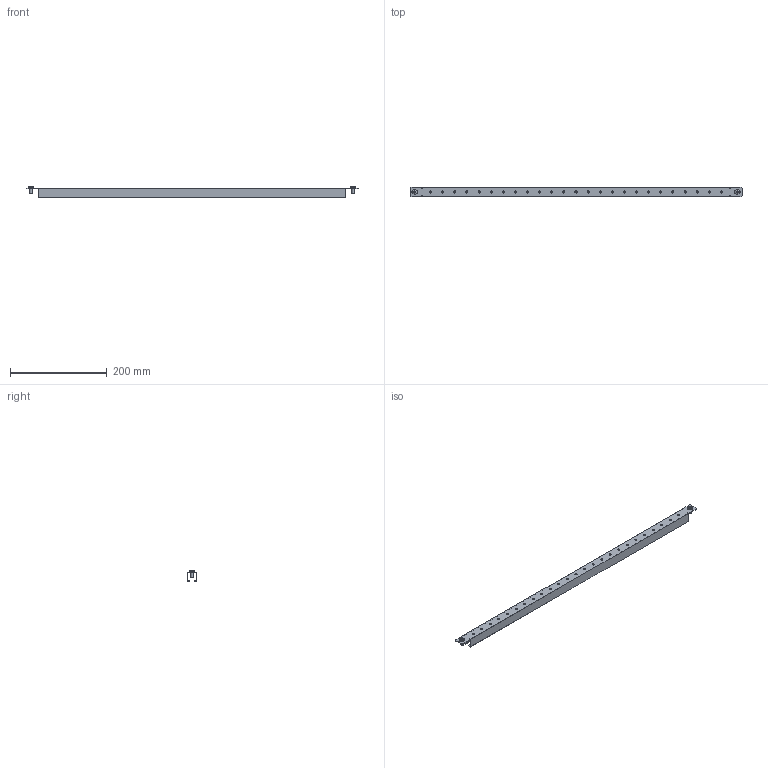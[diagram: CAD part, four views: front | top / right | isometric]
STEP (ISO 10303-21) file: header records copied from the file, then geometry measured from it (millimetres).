
FILE_DESCRIPTION(('Open CASCADE Model'),'2;1');
FILE_NAME('Open CASCADE Shape Model','2025-02-21T13:53:35',('Author'),( 'Open CASCADE'),'Open CASCADE STEP processor 7.8','Open CASCADE 7.8' ,'Unknown');
FILE_SCHEMA(('AUTOMOTIVE_DESIGN { 1 0 10303 214 1 1 1 1 }'));
Length unit declared in the file: millimetre
Products named in the file (3): Compound1; Solid1; Solid2
Assembly tree (3 placements, depth 2):
  Compound1
    Solid1
    Solid2  x2
Bounding box: 685 x 20 x 23.56 mm (x, y, z)
Volume: 63530 mm3; surface area: 87281.5 mm2
Topology: 3 solids, 3 shells, 111 faces, 291 edges, 188 vertices
Faces by surface type: plane 66, cylinder 33, torus 4, cone 4, sphere 2, bspline 2
Full cylindrical faces by diameter (mm): 4.2 x25, 5 x2, 9.5 x2
Entity records: 3482 total; most frequent: CARTESIAN_POINT 927, ORIENTED_EDGE 520, DIRECTION 488, EDGE_CURVE 260, VERTEX_POINT 171, AXIS2_PLACEMENT_3D 170, FACE_BOUND 151, EDGE_LOOP 151
